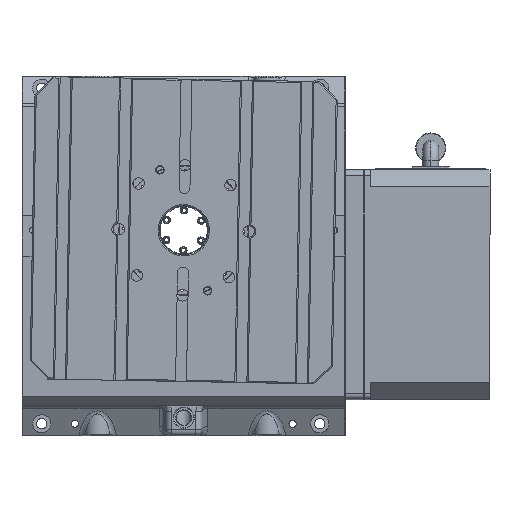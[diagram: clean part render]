
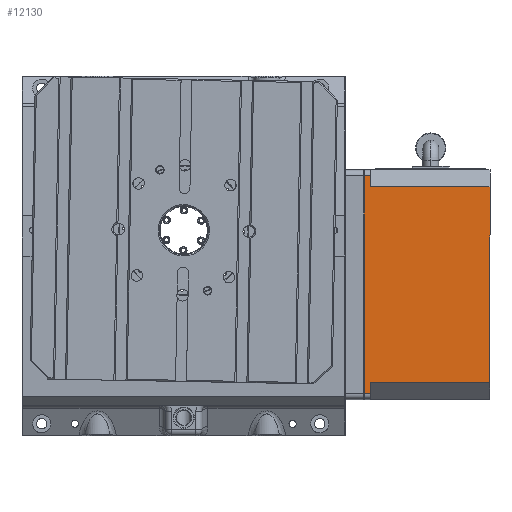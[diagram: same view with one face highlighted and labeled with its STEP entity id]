
A CAD part, front view. The second image highlights one B-rep face of the part: STEP entity #12130.
In plain terms, the highlighted planar face has unit normal (0, -1, 0).
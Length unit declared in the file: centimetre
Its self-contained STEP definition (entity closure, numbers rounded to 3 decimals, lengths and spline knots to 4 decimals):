
#315 = EDGE_CURVE ( 'NONE', #23963, #27836, #18198, .T. ) ;
#1197 = FACE_OUTER_BOUND ( 'NONE', #7185, .T. ) ;
#1919 = CARTESIAN_POINT ( 'NONE',  ( 29.8599, -7.28, 38.55 ) ) ;
#2552 = CARTESIAN_POINT ( 'NONE',  ( 49.6599, -7.28, 72.75 ) ) ;
#2558 = CARTESIAN_POINT ( 'NONE',  ( 29.8599, -7.28, 70.95 ) ) ;
#3245 = VECTOR ( 'NONE', #20228, 100. ) ;
#3452 = CARTESIAN_POINT ( 'NONE',  ( 29.8599, -7.28, 73.75 ) ) ;
#3497 = LINE ( 'NONE', #3452, #7764 ) ;
#4708 = CARTESIAN_POINT ( 'NONE',  ( 29.8599, -7.28, 36.75 ) ) ;
#4749 = EDGE_CURVE ( 'NONE', #31981, #23963, #4976, .T. ) ;
#4889 = CARTESIAN_POINT ( 'NONE',  ( 29.8599, -7.28, 72.75 ) ) ;
#4976 = LINE ( 'NONE', #22358, #5399 ) ;
#5333 = ORIENTED_EDGE ( 'NONE', *, *, #7443, .F. ) ;
#5399 = VECTOR ( 'NONE', #14778, 100. ) ;
#5497 = DIRECTION ( 'NONE',  ( 0., 0., -1. ) ) ;
#5626 = CARTESIAN_POINT ( 'NONE',  ( 24.9001, -7.28, 70.95 ) ) ;
#7185 = EDGE_LOOP ( 'NONE', ( #8576, #23009, #21392, #15952, #7874, #24622, #5333, #15452 ) ) ;
#7263 = CARTESIAN_POINT ( 'NONE',  ( 49.6599, -7.28, 38.55 ) ) ;
#7443 = EDGE_CURVE ( 'NONE', #12655, #28237, #19488, .T. ) ;
#7764 = VECTOR ( 'NONE', #28615, 100. ) ;
#7870 = CARTESIAN_POINT ( 'NONE',  ( 28.8599, -7.28, 36.75 ) ) ;
#7874 = ORIENTED_EDGE ( 'NONE', *, *, #26940, .T. ) ;
#8034 = CARTESIAN_POINT ( 'NONE',  ( 29.8599, -7.28, 35.75 ) ) ;
#8576 = ORIENTED_EDGE ( 'NONE', *, *, #14745, .T. ) ;
#8944 = VECTOR ( 'NONE', #28519, 100. ) ;
#10824 = CARTESIAN_POINT ( 'NONE',  ( 49.6599, -7.28, 35.75 ) ) ;
#11463 = CARTESIAN_POINT ( 'NONE',  ( 28.8599, -7.28, 72.75 ) ) ;
#12130 = ADVANCED_FACE ( 'NONE', ( #1197 ), #21262, .F. ) ;
#12632 = VERTEX_POINT ( 'NONE', #2558 ) ;
#12655 = VERTEX_POINT ( 'NONE', #25829 ) ;
#13686 = VECTOR ( 'NONE', #28916, 100. ) ;
#13954 = VECTOR ( 'NONE', #5497, 100. ) ;
#14135 = LINE ( 'NONE', #2552, #20858 ) ;
#14745 = EDGE_CURVE ( 'NONE', #12632, #17886, #3497, .T. ) ;
#14778 = DIRECTION ( 'NONE',  ( 0., 0., -1. ) ) ;
#14908 = VERTEX_POINT ( 'NONE', #1919 ) ;
#15452 = ORIENTED_EDGE ( 'NONE', *, *, #21039, .F. ) ;
#15952 = ORIENTED_EDGE ( 'NONE', *, *, #315, .T. ) ;
#16107 = DIRECTION ( 'NONE',  ( 0., 1., 0. ) ) ;
#16212 = LINE ( 'NONE', #8034, #3245 ) ;
#17211 = LINE ( 'NONE', #23623, #8944 ) ;
#17886 = VERTEX_POINT ( 'NONE', #4889 ) ;
#18148 = EDGE_CURVE ( 'NONE', #14908, #28237, #17211, .T. ) ;
#18198 = LINE ( 'NONE', #24775, #20122 ) ;
#18749 = DIRECTION ( 'NONE',  ( 0., 0., 1. ) ) ;
#19368 = AXIS2_PLACEMENT_3D ( 'NONE', #28548, #16107, #18749 ) ;
#19488 = LINE ( 'NONE', #10824, #13954 ) ;
#20122 = VECTOR ( 'NONE', #27317, 100. ) ;
#20228 = DIRECTION ( 'NONE',  ( 0., 0., 1. ) ) ;
#20858 = VECTOR ( 'NONE', #27267, 100. ) ;
#21039 = EDGE_CURVE ( 'NONE', #12632, #12655, #21978, .T. ) ;
#21262 = PLANE ( 'NONE',  #19368 ) ;
#21392 = ORIENTED_EDGE ( 'NONE', *, *, #4749, .T. ) ;
#21978 = LINE ( 'NONE', #5626, #13686 ) ;
#22358 = CARTESIAN_POINT ( 'NONE',  ( 28.8599, -7.28, 35.75 ) ) ;
#23009 = ORIENTED_EDGE ( 'NONE', *, *, #28193, .T. ) ;
#23623 = CARTESIAN_POINT ( 'NONE',  ( 24.9001, -7.28, 38.55 ) ) ;
#23963 = VERTEX_POINT ( 'NONE', #7870 ) ;
#24622 = ORIENTED_EDGE ( 'NONE', *, *, #18148, .T. ) ;
#24775 = CARTESIAN_POINT ( 'NONE',  ( 49.6599, -7.28, 36.75 ) ) ;
#25829 = CARTESIAN_POINT ( 'NONE',  ( 49.6599, -7.28, 70.95 ) ) ;
#26940 = EDGE_CURVE ( 'NONE', #27836, #14908, #16212, .T. ) ;
#27267 = DIRECTION ( 'NONE',  ( -1., 0., 0. ) ) ;
#27317 = DIRECTION ( 'NONE',  ( 1., 0., 0. ) ) ;
#27836 = VERTEX_POINT ( 'NONE', #4708 ) ;
#28193 = EDGE_CURVE ( 'NONE', #17886, #31981, #14135, .T. ) ;
#28237 = VERTEX_POINT ( 'NONE', #7263 ) ;
#28519 = DIRECTION ( 'NONE',  ( 1., 0., 0. ) ) ;
#28548 = CARTESIAN_POINT ( 'NONE',  ( 49.6599, -7.28, 35.75 ) ) ;
#28615 = DIRECTION ( 'NONE',  ( 0., 0., 1. ) ) ;
#28916 = DIRECTION ( 'NONE',  ( 1., 0., 0. ) ) ;
#31981 = VERTEX_POINT ( 'NONE', #11463 ) ;
